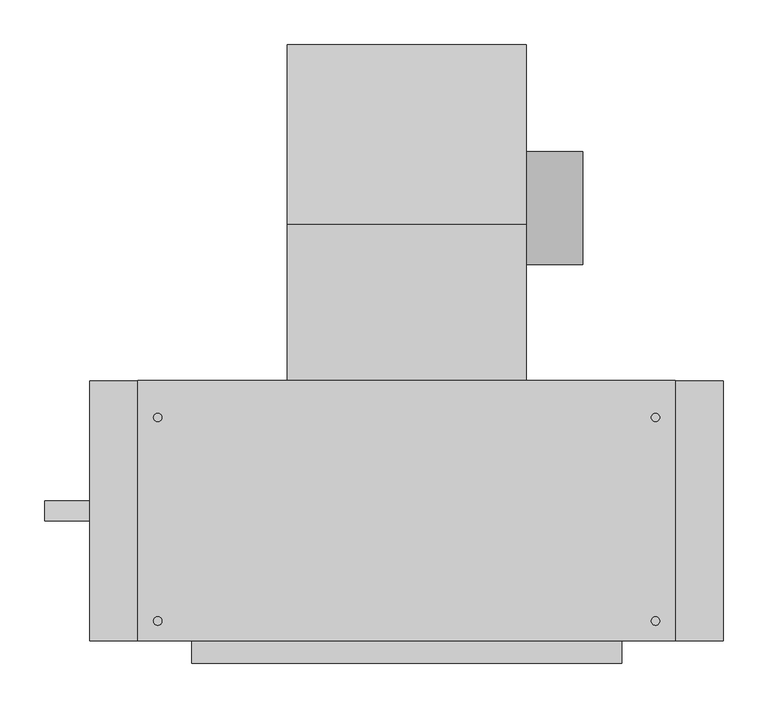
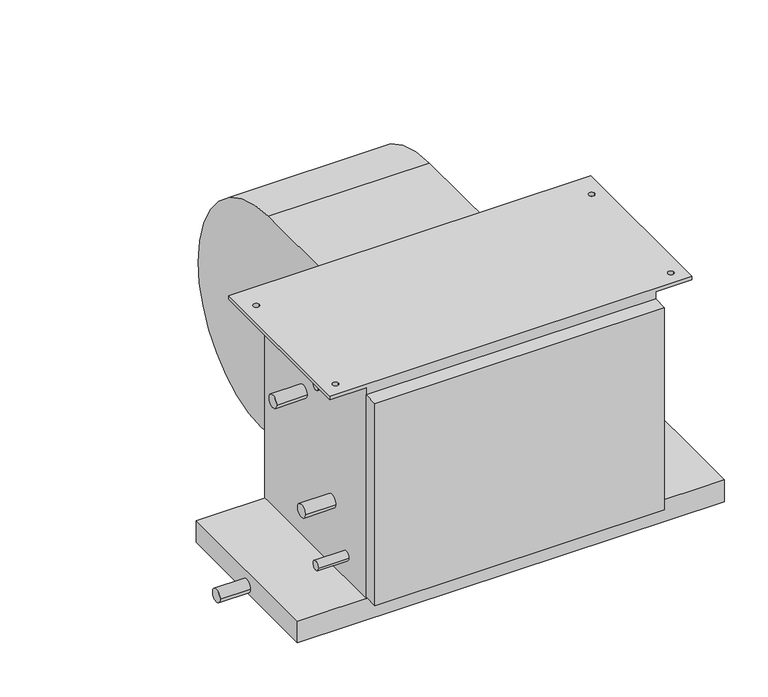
"""IFC4 building model written with IfcOpenShell, lengths in millimetres: proxy geometry, Concealed_High_Capacity_Horizontal_Fan_Coil_Unit_-_42DAA_-_CARRIER_-_4-Pipe_LH_2022 : Size 08 - 277v/60Hz/1Ph - 6/2 Coil."""

import ifcopenshell
import ifcopenshell.guid

model = None  # the IFC model being written
_history = None  # IfcOwnerHistory: only IFC2X3 demands one
_inside = {}  # id of a spatial element -> (the spatial element, [elements in it])
_under = {}  # id of a project, library or spatial element -> (it, [spatial elements below it])
_declared = {}  # id of a project -> (the project, [libraries it declares])
_typed = {}  # id of a type object -> (the type object, [elements of that type])
_made_of = {}  # id of a material, layer set ... -> (it, [elements and type objects made of it])


def new_model(schema):
    """Start an empty IFC model of exactly this schema.

    Asked for "IFC4X3", IfcOpenShell would pick the latest addendum, in which some entities
    have other attributes; the version numbers below select the first issue.
    IFC2X3 requires an IfcOwnerHistory on every rooted entity: one is made here for all.
    """
    global model, _history
    if schema == "IFC4X3":
        model = ifcopenshell.file(schema_version=(4, 3, 0, 0))
    else:
        model = ifcopenshell.file(schema=schema)
    _inside.clear()
    _under.clear()
    _declared.clear()
    _typed.clear()
    _made_of.clear()
    _history = None
    if model.schema == "IFC2X3":
        org = make("IfcOrganization", Name="unknown")
        user = make(
            "IfcPersonAndOrganization",
            ThePerson=make("IfcPerson", FamilyName="unknown"),
            TheOrganization=org,
        )
        app = make(
            "IfcApplication",
            ApplicationDeveloper=org,
            Version="unknown",
            ApplicationFullName="unknown",
            ApplicationIdentifier="unknown",
        )
        _history = make(
            "IfcOwnerHistory",
            OwningUser=user,
            OwningApplication=app,
            ChangeAction="ADDED",
            CreationDate=0,
        )
    return model


def make(cls, **values):
    """One entity of the class cls with the attributes given. An attribute that is None is left unset."""
    return model.create_entity(
        cls, **{name: value for name, value in values.items() if value is not None}
    )


def rooted(cls, **values):
    """An entity with a GlobalId (a new one), such as an element, a storey or a relation."""
    return make(cls, GlobalId=ifcopenshell.guid.new(), OwnerHistory=_history, **values)


def si_unit(unit_type, name, prefix=None):
    """IfcSIUnit, for example si_unit("LENGTHUNIT", "METRE", prefix="MILLI")."""
    return make("IfcSIUnit", UnitType=unit_type, Prefix=prefix, Name=name)


def assignment(units):
    """IfcUnitAssignment: the units of a project."""
    return None if units is None else make("IfcUnitAssignment", Units=units)


def point(xyz):
    """IfcCartesianPoint."""
    return None if xyz is None else make("IfcCartesianPoint", Coordinates=xyz)


def direction(xyz):
    """IfcDirection."""
    return None if xyz is None else make("IfcDirection", DirectionRatios=xyz)


def frame(location, z_axis=None, x_axis=None):
    """IfcAxis2Placement3D, a coordinate frame: its origin and axes. An axis left out is left unset."""
    return make(
        "IfcAxis2Placement3D",
        Location=point(location),
        Axis=direction(z_axis),
        RefDirection=direction(x_axis),
    )


def frame_2d(location, x_axis=None):
    """IfcAxis2Placement2D, a coordinate frame in the plane: its origin and x axis."""
    return make(
        "IfcAxis2Placement2D", Location=point(location), RefDirection=direction(x_axis)
    )


def origin():
    """The frame at (0, 0, 0) with its axes left unset."""
    return frame((0.0, 0.0, 0.0))


def place(relative_to, where):
    """IfcLocalPlacement: puts the frame where relative to a parent placement (None: the world)."""
    return make(
        "IfcLocalPlacement", PlacementRelTo=relative_to, RelativePlacement=where
    )


def context(
    kind, dimensions, precision=None, world=None, true_north=None, identifier=None
):
    """IfcGeometricRepresentationContext, for example the 3D "Model" context."""
    return make(
        "IfcGeometricRepresentationContext",
        ContextIdentifier=identifier,
        ContextType=kind,
        CoordinateSpaceDimension=dimensions,
        Precision=precision,
        WorldCoordinateSystem=world,
        TrueNorth=true_north,
    )


def project(units=None, contexts=None):
    """IfcProject with its units and contexts."""
    return rooted(
        "IfcProject",
        Name="project",
        RepresentationContexts=contexts,
        UnitsInContext=assignment(units),
    )


def spatial(cls, under=None, at=None, **own):
    """A site, building, storey or space (cls), placed at a placement, below another one or the project."""
    s = rooted(cls, ObjectPlacement=at, **own)
    if under is not None:
        _under.setdefault(under.id(), (under, []))[1].append(s)
    return s


def polyline(points):
    """IfcPolyline through the points."""
    return make("IfcPolyline", Points=[point(p) for p in points])


def circle_curve(where, radius):
    """IfcCircle in the frame where."""
    return make("IfcCircle", Position=where, Radius=radius)


def trimmed(basis, trim1, trim2, sense, master):
    """IfcTrimmedCurve: the piece of a basis curve between two trims."""
    return make(
        "IfcTrimmedCurve",
        BasisCurve=basis,
        Trim1=trim1,
        Trim2=trim2,
        SenseAgreement=sense,
        MasterRepresentation=master,
    )


def segment(curve, same_sense, transition):
    """IfcCompositeCurveSegment."""
    return make(
        "IfcCompositeCurveSegment",
        Transition=transition,
        SameSense=same_sense,
        ParentCurve=curve,
    )


def composite_curve(segments, self_intersect=None):
    """IfcCompositeCurve: segments joined end to end."""
    return make("IfcCompositeCurve", Segments=segments, SelfIntersect=self_intersect)


def outline(outer, holes=None, kind="AREA"):
    """IfcArbitraryClosedProfileDef: a profile drawn as a closed curve; with holes, ...WithVoids."""
    if holes is None:
        return make("IfcArbitraryClosedProfileDef", ProfileType=kind, OuterCurve=outer)
    return make(
        "IfcArbitraryProfileDefWithVoids",
        ProfileType=kind,
        OuterCurve=outer,
        InnerCurves=holes,
    )


def extrude(swept, where, along, depth):
    """IfcExtrudedAreaSolid: the profile swept, set in the frame where, extruded along a direction by depth."""
    return make(
        "IfcExtrudedAreaSolid",
        SweptArea=swept,
        Position=where,
        ExtrudedDirection=direction(along),
        Depth=depth,
    )


def shape(context_of_items, identifier, shape_type, items):
    """IfcShapeRepresentation: the items that make up one representation, for example the "Body"."""
    return make(
        "IfcShapeRepresentation",
        ContextOfItems=context_of_items,
        RepresentationIdentifier=identifier,
        RepresentationType=shape_type,
        Items=items,
    )


def source(mapping_origin, context_of_items, identifier, shape_type, items):
    """IfcRepresentationMap: a shape defined once, which mapped items show again and again."""
    return make(
        "IfcRepresentationMap",
        MappingOrigin=mapping_origin,
        MappedRepresentation=shape(context_of_items, identifier, shape_type, items),
    )


def transform(
    local_origin,
    x_axis=None,
    y_axis=None,
    z_axis=None,
    scale=None,
    scale2=None,
    scale3=None,
    uniform=True,
):
    """IfcCartesianTransformationOperator3D, or its non-uniform kind. x_axis, y_axis, z_axis: its Axis1, 2, 3."""
    if uniform:
        return make(
            "IfcCartesianTransformationOperator3D",
            Axis1=direction(x_axis),
            Axis2=direction(y_axis),
            LocalOrigin=point(local_origin),
            Scale=scale,
            Axis3=direction(z_axis),
        )
    return make(
        "IfcCartesianTransformationOperator3DnonUniform",
        Axis1=direction(x_axis),
        Axis2=direction(y_axis),
        LocalOrigin=point(local_origin),
        Scale=scale,
        Axis3=direction(z_axis),
        Scale2=scale2,
        Scale3=scale3,
    )


def mapped(mapping_source, mapping_target):
    """IfcMappedItem: shows the shape of a source again, moved by a transform."""
    return make(
        "IfcMappedItem", MappingSource=mapping_source, MappingTarget=mapping_target
    )


def made_of(thing, what):
    """Note that an element or type object is made of a material, layer set ...; save() writes the relation."""
    if what is not None:
        _made_of.setdefault(what.id(), (what, []))[1].append(thing)
    return thing


def element(
    cls,
    number,
    at=None,
    inside=None,
    cuts=None,
    type_object=None,
    material=None,
    context=None,
    identifier="Body",
    shape_type=None,
    held_by="IfcProductDefinitionShape",
    body=None,
    shapes=None,
    **own,
):
    """One element of the class cls, such as IfcWall. Its Tag is "e" and its number.

    at: its placement. inside: the storey or other place that contains it. cuts: it is an
    opening in that element (IfcRelVoidsElement). A single representation is given by context,
    identifier, shape_type and body (its items); several are given by shapes. held_by: the class
    of the entity that holds the representations. save() writes the other relations.
    """
    e = rooted(cls, Tag="e%d" % number, ObjectPlacement=at, **own)
    if body is not None:
        shapes = [shape(context, identifier, shape_type, body)]
    if shapes is not None:
        e.Representation = make(held_by, Representations=shapes)
    if inside is not None:
        _inside.setdefault(inside.id(), (inside, []))[1].append(e)
    if cuts is not None:
        rooted(
            "IfcRelVoidsElement", RelatingBuildingElement=cuts, RelatedOpeningElement=e
        )
    if type_object is not None:
        _typed.setdefault(type_object.id(), (type_object, []))[1].append(e)
    return made_of(e, material)


def aggregate(whole, parts):
    """IfcRelAggregates: a whole, such as a stair, and the parts it consists of."""
    return rooted("IfcRelAggregates", RelatingObject=whole, RelatedObjects=parts)


def save(model, path):
    """Write the relations noted so far, then the file.

    IfcRelAggregates (storeys below a building ...), IfcRelContainedInSpatialStructure (elements
    in a storey), IfcRelDefinesByType, IfcRelAssociatesMaterial and IfcRelDeclares: one each for
    every whole, place, type object, material and project.
    """
    for whole, parts in _under.values():
        aggregate(whole, parts)
    for where, things in _inside.values():
        rooted(
            "IfcRelContainedInSpatialStructure",
            RelatedElements=things,
            RelatingStructure=where,
        )
    for kind, things in _typed.values():
        rooted("IfcRelDefinesByType", RelatedObjects=things, RelatingType=kind)
    for what, things in _made_of.values():
        rooted("IfcRelAssociatesMaterial", RelatedObjects=things, RelatingMaterial=what)
    for by, libraries in _declared.values():
        rooted("IfcRelDeclares", RelatingContext=by, RelatedDefinitions=libraries)
    model.write(path)


def plane_surface(at):
    """IfcPlane: the flat surface through the origin of the frame at, square to its z axis."""
    return make("IfcPlane", Position=at)


def cylinder_surface(at, radius):
    """IfcCylindricalSurface: all points at the distance radius from the z axis of the frame at."""
    return make("IfcCylindricalSurface", Position=at, Radius=radius)


def revolved_surface(curve, axis_point, axis_direction):
    """IfcSurfaceOfRevolution: the curve turned about the line through axis_point along axis_direction."""
    return make(
        "IfcSurfaceOfRevolution",
        SweptCurve=make("IfcArbitraryOpenProfileDef", ProfileType="CURVE", Curve=curve),
        AxisPosition=make("IfcAxis1Placement", Location=point(axis_point), Axis=direction(axis_direction)),
    )


def advanced_brep(points, edges, surfaces, faces):
    """IfcAdvancedBrep: a solid bounded by faces that lie on surfaces and meet in shared edges.

    An edge is (start, end): straight between two places in points (the first is 0);
    or (start, end, curve); or (start, end, curve, False) where it runs against its curve.
    A face is (place in surfaces, loops), or (place, loops, False) where it looks against
    its surface's normal. A loop lists edges by number (the first is 1), with a minus sign
    where the edge is run from its end to its start. The first loop is the outer one.
    """
    corners = [point(p) for p in points]
    vertices = [make("IfcVertexPoint", VertexGeometry=c) for c in corners]
    made = []
    for start, end, *more in edges:
        made.append(
            make(
                "IfcEdgeCurve",
                EdgeStart=vertices[start],
                EdgeEnd=vertices[end],
                EdgeGeometry=more[0] if more else make("IfcPolyline", Points=[corners[start], corners[end]]),
                SameSense=more[1] if len(more) > 1 else True,
            )
        )
    hull = []
    for where, loops, *sense in faces:
        bounds = []
        for j, loop in enumerate(loops):
            ring = [make("IfcOrientedEdge", EdgeElement=made[abs(k) - 1], Orientation=k > 0) for k in loop]
            bounds.append(
                make(
                    "IfcFaceOuterBound" if j == 0 else "IfcFaceBound",
                    Bound=make("IfcEdgeLoop", EdgeList=ring),
                    Orientation=True,
                )
            )
        hull.append(make("IfcAdvancedFace", Bounds=bounds, FaceSurface=surfaces[where], SameSense=sense[0] if sense else True))
    return make("IfcAdvancedBrep", Outer=make("IfcClosedShell", CfsFaces=hull))


def mechanical_equipment_a8bdb0d3(model_context):
    return source(origin(), model_context, "Body", "SolidModel", [
        extrude(outline(composite_curve([segment(trimmed(circle_curve(frame_2d((117.8757598, -213.2397468)), 63.5), [point((181.3757598, -213.2397468))], [point((54.3757598, -213.2397468))], False, "CARTESIAN"), True, "CONTINUOUS"), segment(trimmed(circle_curve(frame_2d((117.8757598, -213.2397468)), 63.5), [point((54.3757598, -213.2397468))], [point((181.3757598, -213.2397468))], False, "CARTESIAN"), True, "CONTINUOUS")], self_intersect=False)), frame((413.512, 0.0, 0.0), z_axis=(1.0, 0.0, 0.0), x_axis=(0.0, 1.0, 0.0)), (0.0, 0.0, 1.0), 63.5),
        advanced_brep(
        [(145.288, 301.3905957, -228.379602), (145.288, 120.4976, -409.99664), (145.288, -35.0266, -283.45638), (145.288, -76.2, -283.45638), (145.288, -76.2, -25.4), (145.288, 98.8830093, -25.4), (413.512, 301.3905957, -228.379602), (413.512, 98.8830093, -25.4), (413.512, -76.2, -25.4), (413.512, -76.2, -283.45638), (413.512, -35.0266, -283.45638), (413.512, 120.497599, -409.9957839)],
        [
            (0, 1, circle_curve(frame((145.288, 120.31726, -228.92258), z_axis=(-1.0, 0.0, 0.0), x_axis=(0.0, -1.0, 0.0)), 181.0741498)),
            (1, 2, circle_curve(frame((145.288, 120.31726, -251.37364), z_axis=(-1.0, 0.0, 0.0), x_axis=(0.0, -1.0, 0.0)), 158.6222464)),
            (2, 3),
            (3, 4),
            (4, 5),
            (5, 0, circle_curve(frame((145.288, 97.8662, -228.92258), z_axis=(-1.0, 0.0, 0.0), x_axis=(0.0, -1.0, 0.0)), 203.52512)),
            (6, 7, circle_curve(frame((413.512, 97.8662, -228.92258), z_axis=(1.0, 0.0, 0.0), x_axis=(0.0, -1.0, 0.0)), 203.52512)),
            (7, 8),
            (8, 9),
            (9, 10),
            (10, 11, circle_curve(frame((413.512, 120.31726, -251.37364), z_axis=(1.0, 0.0, 0.0), x_axis=(0.0, -1.0, 0.0)), 158.6222464)),
            (11, 6, circle_curve(frame((413.512, 120.31726, -228.92258), z_axis=(1.0, 0.0, 0.0), x_axis=(0.0, -1.0, 0.0)), 181.0741498)),
            (0, 6),
            (11, 1),
            (10, 2),
            (9, 3),
            (8, 4),
            (7, 5),
        ],
        [
            plane_surface(frame((145.288, -60.7568898, -228.92258), z_axis=(-1.0, 0.0, 0.0), x_axis=(0.0, 0.0, 1.0))),
            plane_surface(frame((413.512, -60.7568898, -228.92258), z_axis=(1.0, 0.0, 0.0), x_axis=(0.0, 0.0, -1.0))),
            cylinder_surface(frame((413.512, 120.31726, -228.92258), z_axis=(-1.0, 0.0, 0.0), x_axis=(0.0, -1.0, 0.0)), 181.0741498),
            cylinder_surface(frame((413.512, 120.31726, -251.37364), z_axis=(-1.0, 0.0, 0.0), x_axis=(0.0, -1.0, 0.0)), 158.6222464),
            plane_surface(frame((145.288, -35.0266, -283.45638), z_axis=(0.0, 0.0, -1.0), x_axis=(1.0, 0.0, 0.0))),
            plane_surface(frame((145.288, -76.2, -283.45638), z_axis=(0.0, -1.0, 0.0), x_axis=(1.0, 0.0, 0.0))),
            plane_surface(frame((145.288, -76.2, -25.4), z_axis=(0.0, 0.0, 1.0), x_axis=(1.0, 0.0, 0.0))),
            cylinder_surface(frame((413.512, 97.8662, -228.92258), z_axis=(-1.0, 0.0, 0.0), x_axis=(0.0, -1.0, 0.0)), 203.52512),
        ],
        [
            (0, [[1, 2, 3, 4, 5, 6]]),
            (1, [[7, 8, 9, 10, 11, 12]]),
            (2, [[-1, 13, -12, 14]]),
            (3, [[-2, -14, -11, 15]]),
            (4, [[-3, -15, -10, 16]]),
            (5, [[-4, -16, -9, 17]]),
            (6, [[-5, -17, -8, 18]]),
            (7, [[-6, -18, -7, -13]]),
        ],
    ),
        extrude(outline(polyline([(635.0, -76.2), (635.0, -368.3), (-76.2, -368.3), (-76.2, -76.2), (635.0, -76.2)])), frame((0.0, 0.0, -415.925), z_axis=(0.0, 0.0, 1.0), x_axis=(1.0, 0.0, 0.0)), (0.0, 0.0, 1.0), 38.1),
        extrude(outline(polyline([(520.7, -393.7), (38.1, -393.7), (38.1, -368.3), (520.7, -368.3), (520.7, -393.7)])), frame((0.0, 0.0, -374.65), z_axis=(0.0, 0.0, 1.0), x_axis=(1.0, 0.0, 0.0)), (0.0, 0.0, 1.0), 355.6),
        extrude(outline(composite_curve([segment(trimmed(circle_curve(frame_2d((-222.25, -403.225)), 11.1125), [point((-233.3625, -403.225))], [point((-211.1375, -403.225))], False, "CARTESIAN"), True, "CONTINUOUS"), segment(trimmed(circle_curve(frame_2d((-222.25, -403.225)), 11.1125), [point((-211.1375, -403.225))], [point((-233.3625, -403.225))], False, "CARTESIAN"), True, "CONTINUOUS")], self_intersect=False)), frame((-127.0, 0.0, 0.0), z_axis=(1.0, 0.0, 0.0), x_axis=(0.0, 1.0, 0.0)), (0.0, 0.0, 1.0), 50.8),
        extrude(outline(composite_curve([segment(trimmed(circle_curve(frame_2d((-187.325, -122.2375)), 11.1125), [point((-198.4375, -122.2375))], [point((-176.2125, -122.2375))], False, "CARTESIAN"), True, "CONTINUOUS"), segment(trimmed(circle_curve(frame_2d((-187.325, -122.2375)), 11.1125), [point((-176.2125, -122.2375))], [point((-198.4375, -122.2375))], False, "CARTESIAN"), True, "CONTINUOUS")], self_intersect=False)), frame((-12.7, 0.0, 0.0), z_axis=(1.0, 0.0, 0.0), x_axis=(0.0, 1.0, 0.0)), (0.0, 0.0, 1.0), 50.8),
        extrude(outline(composite_curve([segment(trimmed(circle_curve(frame_2d((-269.875, -265.1125)), 11.1125), [point((-280.9875, -265.1125))], [point((-258.7625, -265.1125))], False, "CARTESIAN"), True, "CONTINUOUS"), segment(trimmed(circle_curve(frame_2d((-269.875, -265.1125)), 11.1125), [point((-258.7625, -265.1125))], [point((-280.9875, -265.1125))], False, "CARTESIAN"), True, "CONTINUOUS")], self_intersect=False)), frame((-12.7, 0.0, 0.0), z_axis=(1.0, 0.0, 0.0), x_axis=(0.0, 1.0, 0.0)), (0.0, 0.0, 1.0), 50.8),
        extrude(outline(composite_curve([segment(trimmed(circle_curve(frame_2d((-311.15, -19.05)), 7.9375), [point((-319.0875, -19.05))], [point((-303.2125, -19.05))], False, "CARTESIAN"), True, "CONTINUOUS"), segment(trimmed(circle_curve(frame_2d((-311.15, -19.05)), 7.9375), [point((-303.2125, -19.05))], [point((-319.0875, -19.05))], False, "CARTESIAN"), True, "CONTINUOUS")], self_intersect=False)), frame((-12.7, 0.0, 0.0), z_axis=(1.0, 0.0, 0.0), x_axis=(0.0, 1.0, 0.0)), (0.0, 0.0, 1.0), 50.8),
        extrude(outline(composite_curve([segment(trimmed(circle_curve(frame_2d((-311.15, -336.55)), 7.9375), [point((-319.0875, -336.55))], [point((-303.2125, -336.55))], False, "CARTESIAN"), True, "CONTINUOUS"), segment(trimmed(circle_curve(frame_2d((-311.15, -336.55)), 7.9375), [point((-303.2125, -336.55))], [point((-319.0875, -336.55))], False, "CARTESIAN"), True, "CONTINUOUS")], self_intersect=False)), frame((-12.7, 0.0, 0.0), z_axis=(1.0, 0.0, 0.0), x_axis=(0.0, 1.0, 0.0)), (0.0, 0.0, 1.0), 50.8),
        advanced_brep(
        [(520.7, -76.2, -377.825), (520.7, -368.3, -377.825), (38.1, -368.3, -377.825), (38.1, -76.2, -377.825), (38.1, -368.3, -6.35), (38.1, -76.2, -6.35), (520.7, -76.2, -6.35), (520.7, -368.3, -6.35), (-22.225, -76.2, 0.0), (-22.225, -368.3, 0.0), (581.025, -368.3, 0.0), (581.025, -76.2, 0.0), (4.7625, -117.475, 0.0), (-4.7625, -117.475, 0.0), (4.7625, -346.075, 0.0), (-4.7625, -346.075, 0.0), (563.5625, -117.475, 0.0), (554.0375, -117.475, 0.0), (563.5625, -346.075, 0.0), (554.0375, -346.075, 0.0), (-22.225, -76.2, -6.35), (-22.225, -368.3, -6.35), (-4.7625, -117.475, -6.35), (4.7625, -117.475, -6.35), (-4.7625, -346.075, -6.35), (4.7625, -346.075, -6.35), (581.025, -76.2, -6.35), (581.025, -368.3, -6.35), (554.0375, -117.475, -6.35), (563.5625, -117.475, -6.35), (554.0375, -346.075, -6.35), (563.5625, -346.075, -6.35)],
        [
            (0, 1),
            (1, 2),
            (2, 3),
            (3, 0),
            (2, 4),
            (4, 5),
            (5, 3),
            (0, 6),
            (6, 7),
            (7, 1),
            (8, 9),
            (9, 10),
            (10, 11),
            (11, 8),
            (12, 13, circle_curve(frame((0.0, -117.475, 0.0), z_axis=(0.0, 0.0, -1.0), x_axis=(1.0, 0.0, 0.0)), 4.7625)),
            (13, 12, circle_curve(frame((0.0, -117.475, 0.0), z_axis=(0.0, 0.0, -1.0), x_axis=(1.0, 0.0, 0.0)), 4.7625)),
            (14, 15, circle_curve(frame((0.0, -346.075, 0.0), z_axis=(0.0, 0.0, -1.0), x_axis=(1.0, 0.0, 0.0)), 4.7625)),
            (15, 14, circle_curve(frame((0.0, -346.075, 0.0), z_axis=(0.0, 0.0, -1.0), x_axis=(1.0, 0.0, 0.0)), 4.7625)),
            (16, 17, circle_curve(frame((558.8, -117.475, 0.0), z_axis=(0.0, 0.0, -1.0), x_axis=(1.0, 0.0, 0.0)), 4.7625)),
            (17, 16, circle_curve(frame((558.8, -117.475, 0.0), z_axis=(0.0, 0.0, -1.0), x_axis=(1.0, 0.0, 0.0)), 4.7625)),
            (18, 19, circle_curve(frame((558.8, -346.075, 0.0), z_axis=(0.0, 0.0, -1.0), x_axis=(1.0, 0.0, 0.0)), 4.7625)),
            (19, 18, circle_curve(frame((558.8, -346.075, 0.0), z_axis=(0.0, 0.0, -1.0), x_axis=(1.0, 0.0, 0.0)), 4.7625)),
            (20, 5),
            (4, 21),
            (21, 20),
            (22, 23, circle_curve(frame((0.0, -117.475, -6.35), z_axis=(0.0, 0.0, 1.0), x_axis=(1.0, 0.0, 0.0)), 4.7625)),
            (23, 22, circle_curve(frame((0.0, -117.475, -6.35), z_axis=(0.0, 0.0, 1.0), x_axis=(1.0, 0.0, 0.0)), 4.7625)),
            (24, 25, circle_curve(frame((0.0, -346.075, -6.35), z_axis=(0.0, 0.0, 1.0), x_axis=(1.0, 0.0, 0.0)), 4.7625)),
            (25, 24, circle_curve(frame((0.0, -346.075, -6.35), z_axis=(0.0, 0.0, 1.0), x_axis=(1.0, 0.0, 0.0)), 4.7625)),
            (26, 27),
            (27, 7),
            (6, 26),
            (28, 29, circle_curve(frame((558.8, -117.475, -6.35), z_axis=(0.0, 0.0, 1.0), x_axis=(1.0, 0.0, 0.0)), 4.7625)),
            (29, 28, circle_curve(frame((558.8, -117.475, -6.35), z_axis=(0.0, 0.0, 1.0), x_axis=(1.0, 0.0, 0.0)), 4.7625)),
            (30, 31, circle_curve(frame((558.8, -346.075, -6.35), z_axis=(0.0, 0.0, 1.0), x_axis=(1.0, 0.0, 0.0)), 4.7625)),
            (31, 30, circle_curve(frame((558.8, -346.075, -6.35), z_axis=(0.0, 0.0, 1.0), x_axis=(1.0, 0.0, 0.0)), 4.7625)),
            (8, 20),
            (21, 9),
            (27, 10),
            (11, 26),
            (12, 23),
            (22, 13),
            (14, 25),
            (24, 15),
            (16, 29),
            (28, 17),
            (18, 31),
            (30, 19),
        ],
        [
            plane_surface(frame((38.1, -76.2, -377.825), z_axis=(0.0, 0.0, -1.0), x_axis=(1.0, 0.0, 0.0))),
            plane_surface(frame((38.1, -76.2, 0.0), z_axis=(-1.0, 0.0, 0.0), x_axis=(0.0, 0.0, -1.0))),
            plane_surface(frame((520.7, -368.3, 0.0), z_axis=(1.0, 0.0, 0.0), x_axis=(0.0, 0.0, -1.0))),
            plane_surface(frame((-22.225, -76.2, 0.0), z_axis=(0.0, 0.0, 1.0), x_axis=(0.0, -1.0, 0.0))),
            plane_surface(frame((-22.225, -76.2, -6.35), z_axis=(0.0, 0.0, -1.0), x_axis=(0.0, 1.0, 0.0))),
            plane_surface(frame((-22.225, -76.2, 0.0), z_axis=(-1.0, 0.0, 0.0), x_axis=(0.0, 0.0, -1.0))),
            plane_surface(frame((-22.225, -368.3, 0.0), z_axis=(0.0, -1.0, 0.0), x_axis=(0.0, 0.0, -1.0))),
            plane_surface(frame((38.1, -76.2, 0.0), z_axis=(0.0, 1.0, 0.0), x_axis=(0.0, 0.0, -1.0))),
            plane_surface(frame((581.025, -368.3, 0.0), z_axis=(1.0, 0.0, 0.0), x_axis=(0.0, 0.0, -1.0))),
            revolved_surface(polyline([(4.7625, -117.475, 0.0), (4.7625, -117.475, -6.35)]), (0.0, -117.475, -6.35), (0.0, 0.0, 1.0)),
            revolved_surface(polyline([(4.7625, -346.075, 0.0), (4.7625, -346.075, -6.35)]), (0.0, -346.075, 0.0), (0.0, 0.0, 1.0)),
            revolved_surface(polyline([(563.5625, -117.475, 0.0), (563.5625, -117.475, -6.35)]), (558.8, -117.475, 0.0), (0.0, 0.0, 1.0)),
            revolved_surface(polyline([(563.5625, -346.075, 0.0), (563.5625, -346.075, -6.35)]), (558.8, -346.075, 0.0), (0.0, 0.0, 1.0)),
        ],
        [
            (0, [[1, 2, 3, 4]]),
            (1, [[-3, 5, 6, 7]]),
            (2, [[-1, 8, 9, 10]]),
            (3, [[11, 12, 13, 14], [15, 16], [17, 18], [19, 20], [21, 22]]),
            (4, [[23, -6, 24, 25], [26, 27], [28, 29]]),
            (4, [[30, 31, -9, 32], [33, 34], [35, 36]]),
            (5, [[-11, 37, -25, 38]]),
            (6, [[-12, -38, -24, -5, -2, -10, -31, 39]]),
            (7, [[-14, 40, -32, -8, -4, -7, -23, -37]]),
            (8, [[-13, -39, -30, -40]]),
            (9, [[41, -26, 42, -15]]),
            (9, [[-41, -16, -42, -27]]),
            (10, [[43, -28, 44, -17]]),
            (10, [[-43, -18, -44, -29]]),
            (11, [[45, -33, 46, -19]]),
            (11, [[-45, -20, -46, -34]]),
            (12, [[47, -35, 48, -21]]),
            (12, [[-47, -22, -48, -36]]),
        ],
    ),
    ])


if __name__ == "__main__":
    model = new_model("IFC4")
    model_context = context("Model", 3, world=origin())
    ifc_project = project(units=[si_unit("LENGTHUNIT", "METRE", prefix="MILLI")], contexts=[model_context])
    site = spatial("IfcSite", under=ifc_project)
    building = spatial("IfcBuilding", under=site)
    placement = place(None, origin())
    mechanical_equipment_shape = mechanical_equipment_a8bdb0d3(model_context)
    element("IfcBuildingElementProxy", 1, Name="Concealed_High_Capacity_Horizontal_Fan_Coil_Unit_-_42DAA_-_CARRIER_-_4-Pipe_LH_2022 : Size 08 - 277v/60Hz/1Ph - 6/2 Coil", ObjectType="Concealed_High_Capacity_Horizontal_Fan_Coil_Unit_-_42DAA_-_CARRIER_-_4-Pipe_LH_2022 : Size 08 - 277v/60Hz/1Ph - 6/2 Coil", at=placement, inside=building, context=model_context, shape_type="MappedRepresentation", body=[
        mapped(mechanical_equipment_shape, transform((0.0, 0.0, 0.0), x_axis=(1.0, 0.0, 0.0), y_axis=(0.0, 1.0, 0.0), z_axis=(0.0, 0.0, 1.0))),
    ])
    save(model, "model.ifc")
